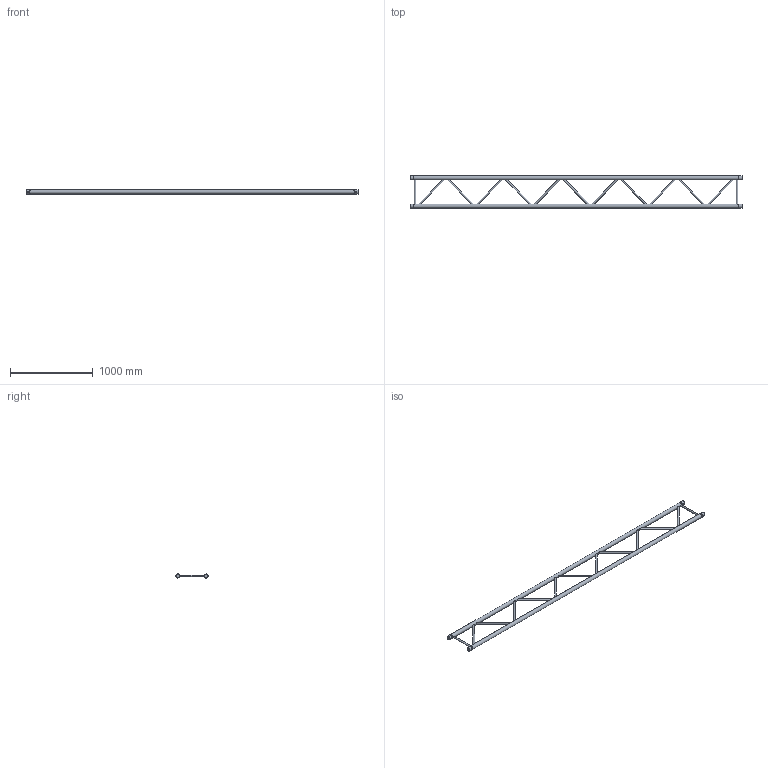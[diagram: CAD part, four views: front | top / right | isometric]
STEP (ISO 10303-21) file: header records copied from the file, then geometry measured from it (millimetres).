
FILE_DESCRIPTION(/* description */ (''),/* implementation_level */ '2;1');
FILE_NAME(/* name */ 'C:\Users\stephan\Desktop\Nieuwe map\H40L\111050160.stp',/* time_stamp */ '2016-09-12T12:54:31+02:00',/* author */ ('Stephan'),/* organization */ (''),/* preprocessor_version */ 'ST-DEVELOPER v15.6',/* originating_system */ 'Autodesk Inventor 2015',/* authorisation */ '');
FILE_SCHEMA (('AUTOMOTIVE_DESIGN { 1 0 10303 214 3 1 1 }'));
Length unit declared in the file: millimetre
Products named in the file (1): 160026988
Bounding box: 4000 x 387.3 x 48.3 mm (x, y, z)
Volume: 5279577.2 mm3; surface area: 2612365.8 mm2
Topology: 15 solids, 17 shells, 79 faces, 126 edges, 85 vertices
Faces by surface type: plane 46, cylinder 29, cone 4
Full cylindrical faces by diameter (mm): 10 x4, 20 x13, 41.8 x4, 42.3 x2, 48.3 x6
Entity records: 2027 total; most frequent: CARTESIAN_POINT 512, DIRECTION 280, ORIENTED_EDGE 164, AXIS2_PLACEMENT_3D 138, EDGE_LOOP 132, STYLED_ITEM 91, FACE_OUTER_BOUND 79, ADVANCED_FACE 79
